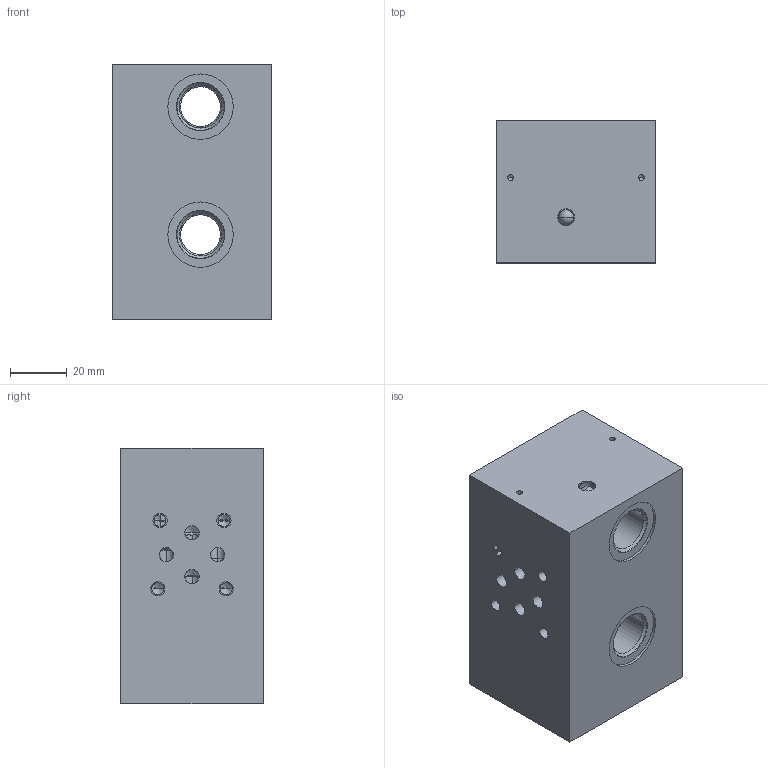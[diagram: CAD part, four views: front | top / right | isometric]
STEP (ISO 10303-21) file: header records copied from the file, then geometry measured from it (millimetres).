
FILE_DESCRIPTION((''),'2;1');
FILE_NAME('16105700_ASM','2018-10-17T',('l.soukupova'),(''),'PRO/ENGINEER BY PARAMETRIC TECHNOLOGY CORPORATION, 2015440','PRO/ENGINEER BY PARAMETRIC TECHNOLOGY CORPORATION, 2015440','');
FILE_SCHEMA(('AUTOMOTIVE_DESIGN { 1 0 10303 214 1 1 1 1 }'));
Length unit declared in the file: millimetre
Products named in the file (3): 23702801; MB850_060E; 16105700_ASM
Assembly tree (3 placements, depth 2):
  16105700_ASM
    23702801
    MB850_060E  x2
Bounding box: 56 x 50 x 90 mm (x, y, z)
Volume: 220252.4 mm3; surface area: 41758.8 mm2
Topology: 3 solids, 17 shells, 251 faces, 706 edges, 516 vertices
Faces by surface type: cone 111, cylinder 106, plane 30, sphere 4
Entity records: 10143 total; most frequent: CARTESIAN_POINT 2166, DIRECTION 1306, ORIENTED_EDGE 960, PRESENTATION_STYLE_ASSIGNMENT 664, STYLED_ITEM 657, CURVE_STYLE 642, AXIS2_PLACEMENT_3D 515, EDGE_CURVE 508
